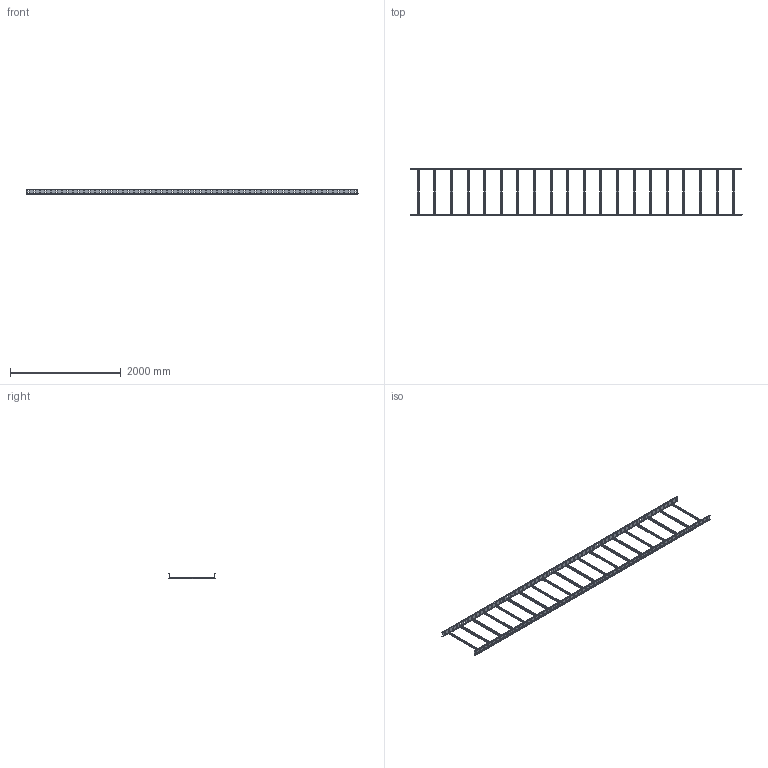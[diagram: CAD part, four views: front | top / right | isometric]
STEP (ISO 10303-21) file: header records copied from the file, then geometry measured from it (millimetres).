
FILE_DESCRIPTION(('Creo Elements/Direct Modeling STEP Export'),'2;1');
FILE_NAME('//pserver/office/EK/ME10-3D/3D-output/WP10-80-HDG.stp','2020-12-09T 9:42:03',(''),(''),'PTC Creo Elements/Direct Modeling STEP processor for AP214 (Solid Model)','PTC Creo Elements/Direct Modeling 19.0C 15-Aug-2015 (C) Parametric Technology GmbH','');
FILE_SCHEMA(('AUTOMOTIVE_DESIGN { 1 0 10303 214 1 1 1 1 }'));
Length unit declared in the file: millimetre
Products named in the file (3): WPH_100B_S_; WPSP_08.7; WP10-80-HDG
Assembly tree (22 placements, depth 2):
  WP10-80-HDG
    WPSP_08.7  x20
    WPH_100B_S_  x2
Bounding box: 6000 x 850 x 100 mm (x, y, z)
Volume: 5154556.2 mm3; surface area: 7010334.8 mm2
Topology: 22 solids, 22 shells, 4556 faces, 13536 edges, 9024 vertices
Faces by surface type: plane 2768, cylinder 1788
Entity records: 24979 total; most frequent: ORIENTED_EDGE 4356, CARTESIAN_POINT 4339, DIRECTION 3874, EDGE_CURVE 2178, VECTOR 1900, LINE 1900, VERTEX_POINT 1452, EDGE_LOOP 1072
